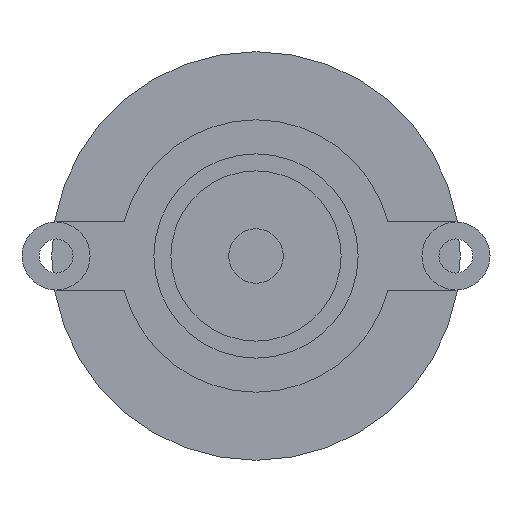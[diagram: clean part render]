
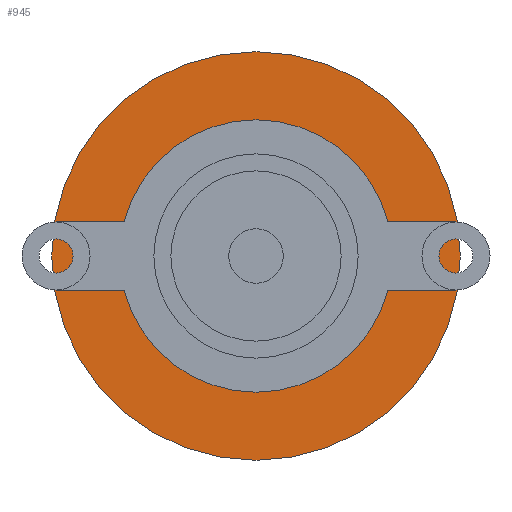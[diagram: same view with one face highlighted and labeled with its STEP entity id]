
A CAD part, front view. The second image highlights one B-rep face of the part: STEP entity #945.
In plain terms, the highlighted planar face has unit normal (0, -1, 0).
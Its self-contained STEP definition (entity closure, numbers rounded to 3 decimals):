
#925 = VERTEX_POINT('',#926);
#926 = CARTESIAN_POINT('',(15.,105.,0.));
#934 = EDGE_CURVE('',#925,#925,#935,.T.);
#935 = CIRCLE('',#936,15.);
#936 = AXIS2_PLACEMENT_3D('',#937,#938,#939);
#937 = CARTESIAN_POINT('',(0.,105.,0.));
#938 = DIRECTION('',(0.,-1.,0.));
#939 = DIRECTION('',(1.,0.,0.));
#945 = ADVANCED_FACE('',(#946,#957),#960,.F.);
#946 = FACE_BOUND('',#947,.T.);
#947 = EDGE_LOOP('',(#948));
#948 = ORIENTED_EDGE('',*,*,#949,.F.);
#949 = EDGE_CURVE('',#950,#950,#952,.T.);
#950 = VERTEX_POINT('',#951);
#951 = CARTESIAN_POINT('',(-30.,105.,0.));
#952 = CIRCLE('',#953,30.);
#953 = AXIS2_PLACEMENT_3D('',#954,#955,#956);
#954 = CARTESIAN_POINT('',(0.,105.,0.));
#955 = DIRECTION('',(0.,1.,-0.));
#956 = DIRECTION('',(-1.,0.,0.));
#957 = FACE_BOUND('',#958,.T.);
#958 = EDGE_LOOP('',(#959));
#959 = ORIENTED_EDGE('',*,*,#934,.F.);
#960 = PLANE('',#961);
#961 = AXIS2_PLACEMENT_3D('',#962,#963,#964);
#962 = CARTESIAN_POINT('',(0.,105.,0.));
#963 = DIRECTION('',(0.,1.,0.));
#964 = DIRECTION('',(-1.,-0.,-0.));
